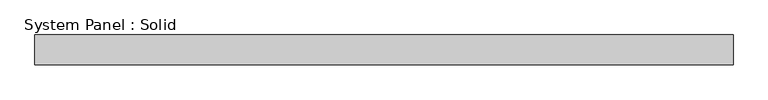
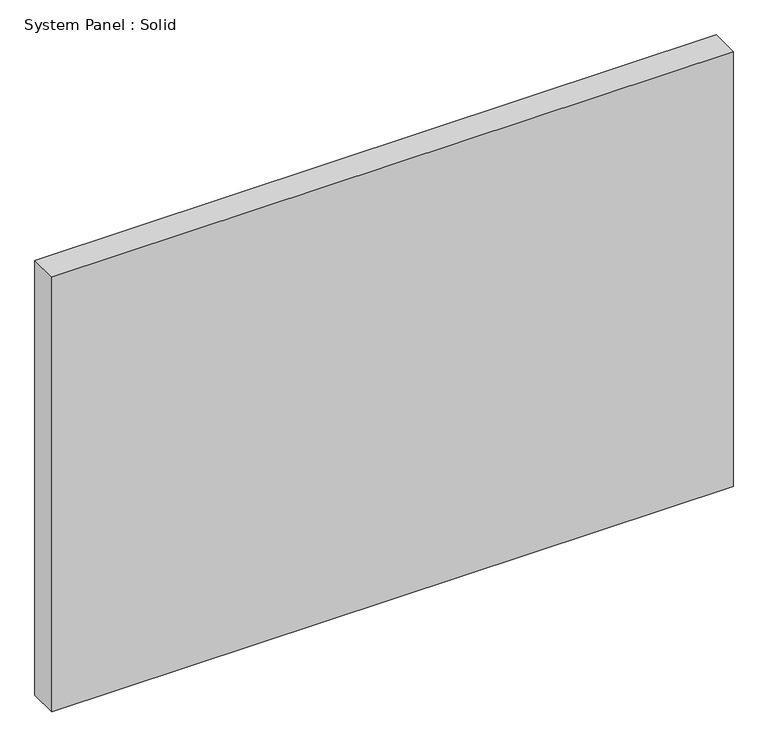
"""IFC4 building model written with IfcOpenShell, lengths in millimetres: plate geometry, System Panel : Solid."""

from ifc_helpers import new_model, si_unit, origin, origin_with_axes, place, context, project, spatial, polyline, outline, extrude, source, transform, mapped, element, save


def system_panel_solid_cb224cf5(model_context):
    return source(origin(), model_context, "Body", "SweptSolid", [
        extrude(outline(polyline([(742.95, -19.05), (-742.95, -19.05), (-742.95, 44.45), (742.95, 44.45), (742.95, -19.05)])), origin_with_axes(), (0.0, 0.0, 1.0), 1003.3),
    ])


if __name__ == "__main__":
    model = new_model("IFC4")
    model_context = context("Model", 3, world=origin())
    ifc_project = project(units=[si_unit("LENGTHUNIT", "METRE", prefix="MILLI")], contexts=[model_context])
    site = spatial("IfcSite", under=ifc_project)
    building = spatial("IfcBuilding", under=site)
    placement = place(None, origin())
    system_panel_solid_shape = system_panel_solid_cb224cf5(model_context)
    element("IfcPlate", 1, ObjectType="System Panel : Solid", at=placement, inside=building, context=model_context, shape_type="MappedRepresentation", body=[
        mapped(system_panel_solid_shape, transform((0.0, 0.0, 0.0), x_axis=(1.0, 0.0, 0.0), y_axis=(0.0, 1.0, 0.0), z_axis=(0.0, 0.0, 1.0))),
    ])
    save(model, "model.ifc")
